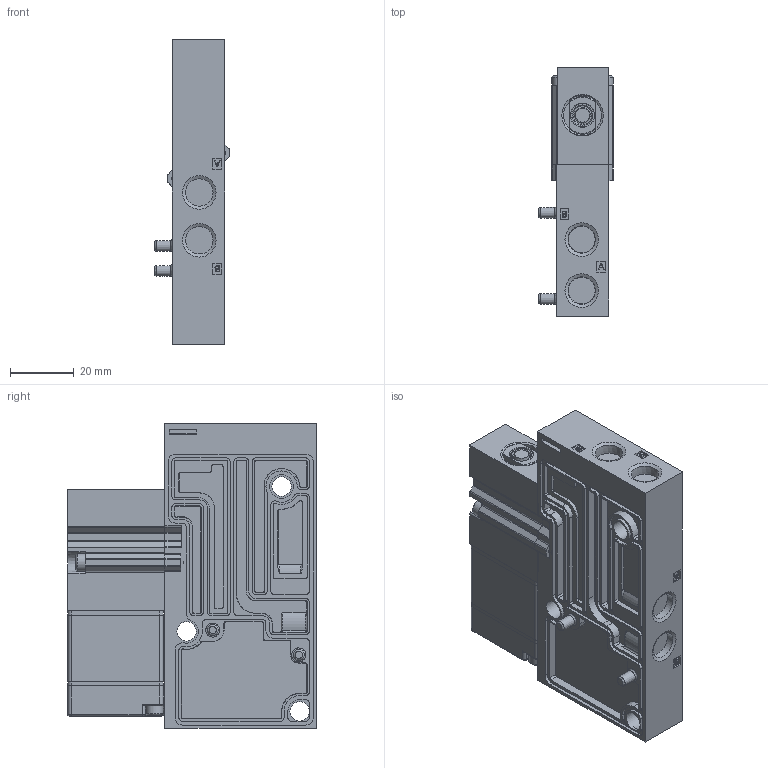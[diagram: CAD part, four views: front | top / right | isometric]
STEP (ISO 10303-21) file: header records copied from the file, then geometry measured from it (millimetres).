
FILE_DESCRIPTION (( 'STEP AP214' ), '1' );
FILE_NAME ('46 SGL CYL.STEP', '2019-09-20T18:24:26', ( 'user' ), ( '' ), 'SwSTEP 2.0', 'SolidWorks 2014', '' );
FILE_SCHEMA (( 'AUTOMOTIVE_DESIGN' ));
Length unit declared in the file: millimetre
Products named in the file (4): 46-OPERATOR-JXXP-1FA; 46-BODY-L00; 46-BASE-0MA-1C; 46 SGL CYL
Assembly tree (3 placements, depth 2):
  46 SGL CYL
    46-BASE-0MA-1C
    46-BODY-L00
    46-OPERATOR-JXXP-1FA
Bounding box: 23.4 x 78 x 95.5 mm (x, y, z)
Volume: 85969 mm3; surface area: 37053.3 mm2
Topology: 11 solids, 12 shells, 1543 faces, 3984 edges, 2559 vertices
Faces by surface type: plane 727, cylinder 542, bspline 137, cone 69, torus 58, sphere 10
Full cylindrical faces by diameter (mm): 0.3 x1, 1.5 x3, 2.5 x3, 3 x2, 3.1 x2, 3.15 x4, 3.5 x1, 3.6 x1, 4.5 x2, 5.3 x2, 5.5 x4, 5.53 x1, 6.097 x3, 6.8 x1, 7.3 x2, 7.4 x1, 7.45 x1, 7.8 x1, 8.58 x2, 10 x1, 10.2 x1, 11.88 x2, 12.4 x1, 12.7 x1
Entity records: 67961 total; most frequent: CARTESIAN_POINT 14670, ORIENTED_EDGE 7670, DIRECTION 7162, EDGE_CURVE 3835, VERTEX_POINT 2531, AXIS2_PLACEMENT_3D 2454, VECTOR 2254, LINE 2254
